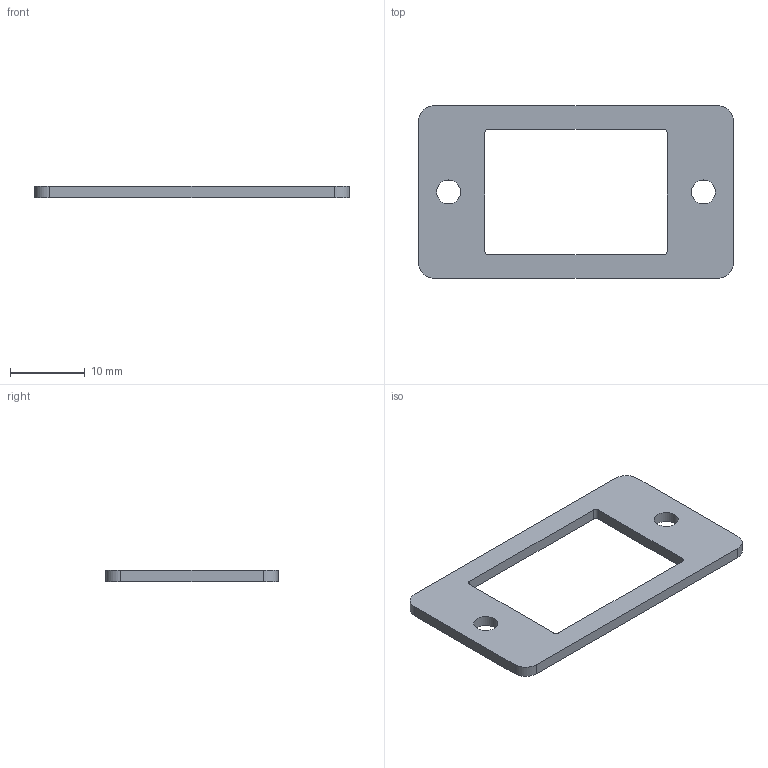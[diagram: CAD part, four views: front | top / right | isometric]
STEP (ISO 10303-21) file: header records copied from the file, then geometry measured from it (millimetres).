
FILE_DESCRIPTION(('FreeCAD Model'),'2;1');
FILE_NAME('Open CASCADE Shape Model','2026-04-08T10:37:02',(''),(''), 'Open CASCADE STEP processor 7.8','FreeCAD','Unknown');
FILE_SCHEMA(('AUTOMOTIVE_DESIGN { 1 0 10303 214 1 1 1 1 }'));
Length unit declared in the file: millimetre
Products named in the file (1): SIM-BZALPL-SL
Bounding box: 42 x 23 x 1.5 mm (x, y, z)
Volume: 807.7 mm3; surface area: 1418.9 mm2
Topology: 1 solids, 1 shells, 20 faces, 54 edges, 36 vertices
Faces by surface type: plane 10, cylinder 10
Full cylindrical faces by diameter (mm): 3.2 x2
Entity records: 672 total; most frequent: DIRECTION 116, CARTESIAN_POINT 111, ORIENTED_EDGE 108, EDGE_CURVE 54, AXIS2_PLACEMENT_3D 41, VERTEX_POINT 36, LINE 34, VECTOR 34
